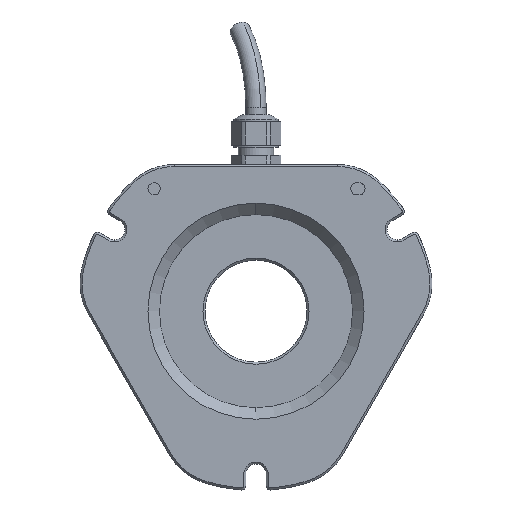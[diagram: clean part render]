
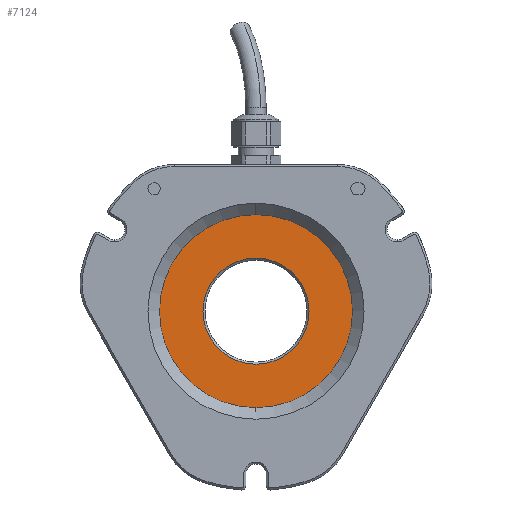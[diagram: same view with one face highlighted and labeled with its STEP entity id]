
A CAD part, front view. The second image highlights one B-rep face of the part: STEP entity #7124.
In plain terms, the highlighted planar face has unit normal (0, -1, 0).
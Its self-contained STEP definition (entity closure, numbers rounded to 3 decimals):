
#492 = DIRECTION ( 'NONE',  ( 0., 0., -1. ) ) ;
#1072 = DIRECTION ( 'NONE',  ( 0., 0., -1. ) ) ;
#2133 = CARTESIAN_POINT ( 'NONE',  ( 0., 2.8, 13. ) ) ;
#2496 = VERTEX_POINT ( 'NONE', #13872 ) ;
#2558 = DIRECTION ( 'NONE',  ( 0., -1., 0. ) ) ;
#2990 = CARTESIAN_POINT ( 'NONE',  ( 0., 2.8, -23.7 ) ) ;
#3386 = EDGE_LOOP ( 'NONE', ( #26416, #25719 ) ) ;
#3440 = ORIENTED_EDGE ( 'NONE', *, *, #29998, .T. ) ;
#4433 = EDGE_CURVE ( 'NONE', #7628, #2496, #35386, .T. ) ;
#5063 = AXIS2_PLACEMENT_3D ( 'NONE', #29105, #24169, #45811 ) ;
#7124 = ADVANCED_FACE ( 'NONE', ( #46660, #7188 ), #29670, .T. ) ;
#7188 = FACE_OUTER_BOUND ( 'NONE', #3386, .T. ) ;
#7628 = VERTEX_POINT ( 'NONE', #2133 ) ;
#8975 = DIRECTION ( 'NONE',  ( 0., 0., -1. ) ) ;
#13283 = AXIS2_PLACEMENT_3D ( 'NONE', #25974, #30886, #8975 ) ;
#13872 = CARTESIAN_POINT ( 'NONE',  ( 0., 2.8, -13. ) ) ;
#18071 = CARTESIAN_POINT ( 'NONE',  ( 0., 2.8, 23.7 ) ) ;
#18563 = AXIS2_PLACEMENT_3D ( 'NONE', #31984, #2558, #36598 ) ;
#20322 = EDGE_LOOP ( 'NONE', ( #3440, #45441 ) ) ;
#24169 = DIRECTION ( 'NONE',  ( 0., -1., 0. ) ) ;
#24370 = CIRCLE ( 'NONE', #5063, 23.7 ) ;
#25719 = ORIENTED_EDGE ( 'NONE', *, *, #54317, .T. ) ;
#25974 = CARTESIAN_POINT ( 'NONE',  ( 0., 2.8, 0. ) ) ;
#26416 = ORIENTED_EDGE ( 'NONE', *, *, #52076, .T. ) ;
#29105 = CARTESIAN_POINT ( 'NONE',  ( 0., 2.8, 0. ) ) ;
#29670 = PLANE ( 'NONE',  #33436 ) ;
#29998 = EDGE_CURVE ( 'NONE', #2496, #7628, #38534, .T. ) ;
#30886 = DIRECTION ( 'NONE',  ( 0., 1., 0. ) ) ;
#31609 = CARTESIAN_POINT ( 'NONE',  ( 0., 2.8, 0. ) ) ;
#31631 = DIRECTION ( 'NONE',  ( 0., 1., 0. ) ) ;
#31984 = CARTESIAN_POINT ( 'NONE',  ( 0., 2.8, 0. ) ) ;
#33436 = AXIS2_PLACEMENT_3D ( 'NONE', #31609, #43748, #492 ) ;
#34853 = AXIS2_PLACEMENT_3D ( 'NONE', #39987, #31631, #1072 ) ;
#35386 = CIRCLE ( 'NONE', #13283, 13. ) ;
#36598 = DIRECTION ( 'NONE',  ( 0., 0., -1. ) ) ;
#38534 = CIRCLE ( 'NONE', #34853, 13. ) ;
#39886 = VERTEX_POINT ( 'NONE', #18071 ) ;
#39987 = CARTESIAN_POINT ( 'NONE',  ( 0., 2.8, 0. ) ) ;
#43748 = DIRECTION ( 'NONE',  ( 0., -1., 0. ) ) ;
#45330 = CIRCLE ( 'NONE', #18563, 23.7 ) ;
#45441 = ORIENTED_EDGE ( 'NONE', *, *, #4433, .T. ) ;
#45811 = DIRECTION ( 'NONE',  ( 0., 0., -1. ) ) ;
#46660 = FACE_BOUND ( 'NONE', #20322, .T. ) ;
#52076 = EDGE_CURVE ( 'NONE', #54830, #39886, #45330, .T. ) ;
#54317 = EDGE_CURVE ( 'NONE', #39886, #54830, #24370, .T. ) ;
#54830 = VERTEX_POINT ( 'NONE', #2990 ) ;
